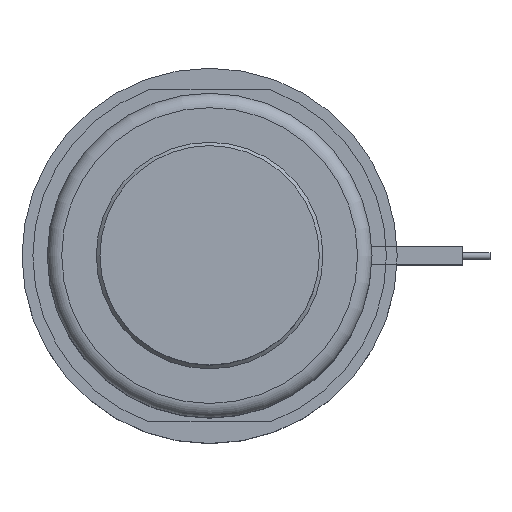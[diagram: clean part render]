
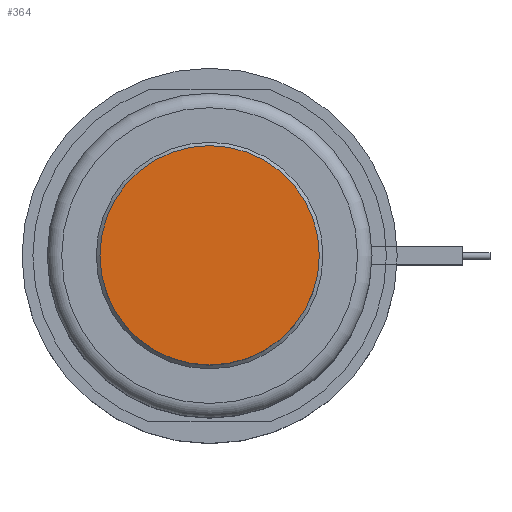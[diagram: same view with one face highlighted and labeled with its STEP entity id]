
A CAD part, top view. The second image highlights one B-rep face of the part: STEP entity #364.
In plain terms, the highlighted planar face has unit normal (0, 0, 1).
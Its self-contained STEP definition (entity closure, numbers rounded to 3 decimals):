
#245=PLANE('',#1304);
#291=FACE_OUTER_BOUND('',#573,.T.);
#364=ADVANCED_FACE('',(#291),#245,.F.);
#573=EDGE_LOOP('',(#715));
#715=ORIENTED_EDGE('',*,*,#1079,.F.);
#972=VERTEX_POINT('',#1867);
#1079=EDGE_CURVE('',#972,#972,#1213,.T.);
#1213=CIRCLE('',#1303,15.2);
#1303=AXIS2_PLACEMENT_3D('',#1866,#1500,#1501);
#1304=AXIS2_PLACEMENT_3D('',#1868,#1502,#1503);
#1500=DIRECTION('',(0.,0.,-1.));
#1501=DIRECTION('',(-1.,0.,0.));
#1502=DIRECTION('',(0.,0.,-1.));
#1503=DIRECTION('',(-1.,0.,0.));
#1866=CARTESIAN_POINT('',(0.,0.,18.));
#1867=CARTESIAN_POINT('',(-15.2,0.,18.));
#1868=CARTESIAN_POINT('',(0.,0.,18.));
